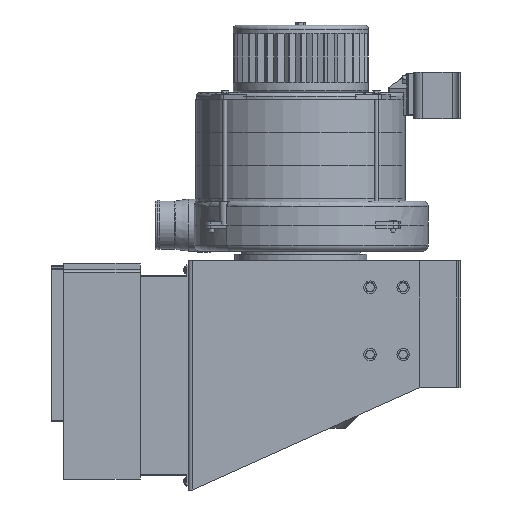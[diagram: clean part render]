
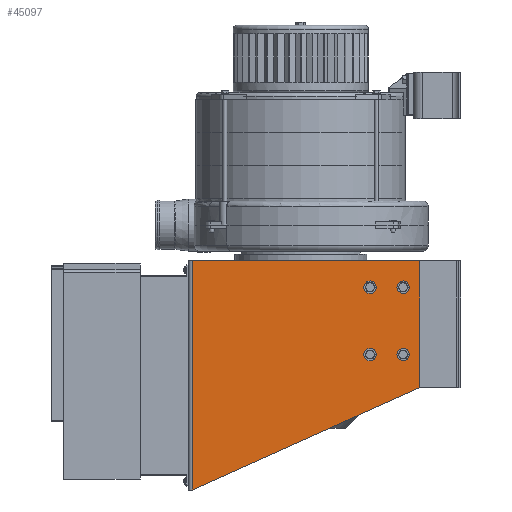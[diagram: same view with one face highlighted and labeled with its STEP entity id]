
A CAD part, left-side view. The second image highlights one B-rep face of the part: STEP entity #45097.
In plain terms, the highlighted planar face has unit normal (-1, 0, 0).
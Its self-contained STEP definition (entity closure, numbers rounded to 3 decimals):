
#4475=LINE('',#82505,#6802);
#4479=LINE('',#82512,#6806);
#4489=LINE('',#82534,#6816);
#4495=LINE('',#82549,#6822);
#6802=VECTOR('',#58671,37.731);
#6806=VECTOR('',#58677,19.2);
#6816=VECTOR('',#58697,34.7);
#6822=VECTOR('',#58715,34.4);
#8492=PLANE('',#49249);
#9466=FACE_BOUND('',#14927,.T.);
#9467=FACE_BOUND('',#14928,.T.);
#9468=FACE_BOUND('',#14929,.T.);
#9469=FACE_BOUND('',#14930,.T.);
#11610=FACE_OUTER_BOUND('',#14926,.T.);
#14926=EDGE_LOOP('',(#36600,#36601,#36602,#36603));
#14927=EDGE_LOOP('',(#36604));
#14928=EDGE_LOOP('',(#36605));
#14929=EDGE_LOOP('',(#36606));
#14930=EDGE_LOOP('',(#36607));
#17293=CIRCLE('',#49190,0.45);
#17295=CIRCLE('',#49193,0.45);
#17297=CIRCLE('',#49196,0.45);
#17299=CIRCLE('',#49199,0.45);
#20736=VERTEX_POINT('',#82364);
#20738=VERTEX_POINT('',#82369);
#20740=VERTEX_POINT('',#82374);
#20742=VERTEX_POINT('',#82379);
#20774=VERTEX_POINT('',#82502);
#20775=VERTEX_POINT('',#82504);
#20777=VERTEX_POINT('',#82510);
#20784=VERTEX_POINT('',#82533);
#26185=EDGE_CURVE('',#20736,#20736,#17293,.T.);
#26187=EDGE_CURVE('',#20738,#20738,#17295,.T.);
#26189=EDGE_CURVE('',#20740,#20740,#17297,.T.);
#26191=EDGE_CURVE('',#20742,#20742,#17299,.T.);
#26229=EDGE_CURVE('',#20775,#20774,#4475,.T.);
#26233=EDGE_CURVE('',#20777,#20774,#4479,.T.);
#26244=EDGE_CURVE('',#20784,#20775,#4489,.T.);
#26253=EDGE_CURVE('',#20784,#20777,#4495,.T.);
#36600=ORIENTED_EDGE('',*,*,#26229,.T.);
#36601=ORIENTED_EDGE('',*,*,#26233,.F.);
#36602=ORIENTED_EDGE('',*,*,#26253,.F.);
#36603=ORIENTED_EDGE('',*,*,#26244,.T.);
#36604=ORIENTED_EDGE('',*,*,#26185,.T.);
#36605=ORIENTED_EDGE('',*,*,#26187,.T.);
#36606=ORIENTED_EDGE('',*,*,#26189,.T.);
#36607=ORIENTED_EDGE('',*,*,#26191,.T.);
#45097=ADVANCED_FACE('',(#11610,#9466,#9467,#9468,#9469),#8492,.T.);
#49190=AXIS2_PLACEMENT_3D('',#82365,#58567,#58568);
#49193=AXIS2_PLACEMENT_3D('',#82370,#58573,#58574);
#49196=AXIS2_PLACEMENT_3D('',#82375,#58579,#58580);
#49199=AXIS2_PLACEMENT_3D('',#82380,#58585,#58586);
#49249=AXIS2_PLACEMENT_3D('',#82550,#58716,#58717);
#58567=DIRECTION('center_axis',(1.,0.,0.));
#58568=DIRECTION('ref_axis',(0.,0.,
-1.));
#58573=DIRECTION('center_axis',(1.,0.,0.));
#58574=DIRECTION('ref_axis',(0.,0.,
-1.));
#58579=DIRECTION('center_axis',(1.,0.,0.));
#58580=DIRECTION('ref_axis',(0.,0.,
-1.));
#58585=DIRECTION('center_axis',(1.,0.,0.));
#58586=DIRECTION('ref_axis',(0.,0.,
-1.));
#58671=DIRECTION('',(0.,-0.912,0.411));
#58677=DIRECTION('',(0.,0.,-1.));
#58697=DIRECTION('',(0.,0.,-1.));
#58715=DIRECTION('',(0.,-1.,0.));
#58716=DIRECTION('center_axis',(-1.,0.,0.));
#58717=DIRECTION('ref_axis',(0.,0.,-1.));
#82364=CARTESIAN_POINT('',(-11.4,-10.5,18.9));
#82365=CARTESIAN_POINT('Origin',(-11.4,-10.5,19.35));
#82369=CARTESIAN_POINT('',(-11.4,-10.5,8.7));
#82370=CARTESIAN_POINT('Origin',(-11.4,-10.5,9.15));
#82374=CARTESIAN_POINT('',(-11.4,-15.5,8.7));
#82375=CARTESIAN_POINT('Origin',(-11.4,-15.5,9.15));
#82379=CARTESIAN_POINT('',(-11.4,-15.5,18.9));
#82380=CARTESIAN_POINT('Origin',(-11.4,-15.5,19.35));
#82502=CARTESIAN_POINT('',(-11.4,-18.,4.15));
#82504=CARTESIAN_POINT('',(-11.4,16.4,-11.35));
#82505=CARTESIAN_POINT('',(-11.4,-11.057,1.022));
#82510=CARTESIAN_POINT('',(-11.4,-18.,23.35));
#82512=CARTESIAN_POINT('',(-11.4,-18.,23.35));
#82533=CARTESIAN_POINT('',(-11.4,16.4,23.35));
#82534=CARTESIAN_POINT('',(-11.4,16.4,6.));
#82549=CARTESIAN_POINT('',(-11.4,16.4,23.35));
#82550=CARTESIAN_POINT('Origin',(-11.4,-0.461,6.));
